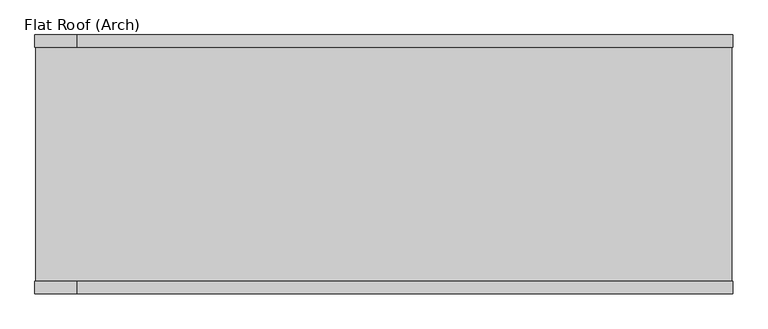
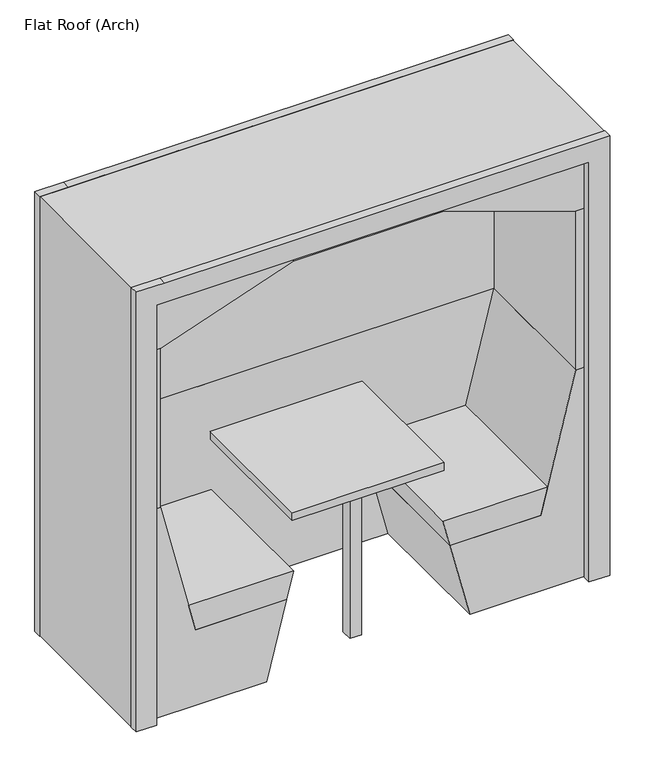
"""IFC4 building model written with IfcOpenShell, lengths in millimetres: furniture geometry, Furniture_WorkPod_Spacestor_RailwayCarriage : Flat Roof (Arch)."""

from ifc_helpers import new_model, si_unit, point, frame, frame_2d, origin, origin_with_axes, place, context, project, spatial, polyline, circle_curve, trimmed, segment, composite_curve, outline, extrude, source, transform, mapped, element, save


def flat_roof_arch_9e1a7323(model_context):
    return source(origin(), model_context, "Body", "SweptSolid", [
        extrude(outline(composite_curve([segment(trimmed(circle_curve(frame_2d((988.5, -402.0)), 15.0), [point((973.5, -402.0))], [point((1003.5, -402.0))], False, "CARTESIAN"), True, "CONTINUOUS"), segment(trimmed(circle_curve(frame_2d((988.5, -402.0)), 15.0), [point((1003.5, -402.0))], [point((973.5, -402.0))], False, "CARTESIAN"), True, "CONTINUOUS")], self_intersect=False)), origin_with_axes(), (0.0, 0.0, 1.0), 15.0),
        extrude(outline(composite_curve([segment(trimmed(circle_curve(frame_2d((-988.5, -402.0)), 15.0), [point((-1003.5, -402.0))], [point((-973.5, -402.0))], False, "CARTESIAN"), True, "CONTINUOUS"), segment(trimmed(circle_curve(frame_2d((-988.5, -402.0)), 15.0), [point((-973.5, -402.0))], [point((-1003.5, -402.0))], False, "CARTESIAN"), True, "CONTINUOUS")], self_intersect=False)), origin_with_axes(), (0.0, 0.0, 1.0), 15.0),
        extrude(outline(composite_curve([segment(trimmed(circle_curve(frame_2d((988.5, -167.0)), 15.0), [point((973.5, -167.0))], [point((1003.5, -167.0))], False, "CARTESIAN"), True, "CONTINUOUS"), segment(trimmed(circle_curve(frame_2d((988.5, -167.0)), 15.0), [point((1003.5, -167.0))], [point((973.5, -167.0))], False, "CARTESIAN"), True, "CONTINUOUS")], self_intersect=False)), origin_with_axes(), (0.0, 0.0, 1.0), 15.0),
        extrude(outline(composite_curve([segment(trimmed(circle_curve(frame_2d((-988.5, -167.0)), 15.0), [point((-1003.5, -167.0))], [point((-973.5, -167.0))], False, "CARTESIAN"), True, "CONTINUOUS"), segment(trimmed(circle_curve(frame_2d((-988.5, -167.0)), 15.0), [point((-973.5, -167.0))], [point((-1003.5, -167.0))], False, "CARTESIAN"), True, "CONTINUOUS")], self_intersect=False)), origin_with_axes(), (0.0, 0.0, 1.0), 15.0),
        extrude(outline(polyline([(3.0, 940.0), (3.0, 1030.0), (2025.0, 1030.0), (2025.0, -905.5), (2025.0, -1030.0), (3.0, -1030.0), (3.0, -940.0), (1935.0, -940.0), (1935.0, 940.0), (3.0, 940.0)])), frame((0.0, 61.0, 0.0), z_axis=(0.0, 1.0, 0.0), x_axis=(0.0, 0.0, 1.0)), (0.0, 0.0, 1.0), 36.0),
        extrude(outline(polyline([(3.0, 940.0), (3.0, 1030.0), (2025.0, 1030.0), (2025.0, -905.5), (2025.0, -1030.0), (3.0, -1030.0), (3.0, -940.0), (1935.0, -940.0), (1935.0, 940.0), (3.0, 940.0)])), frame((0.0, -666.0, 0.0), z_axis=(0.0, 1.0, 0.0), x_axis=(0.0, 0.0, 1.0)), (0.0, 0.0, 1.0), 36.0),
        extrude(outline(polyline([(323.7167545, -630.0), (-323.7167545, -630.0), (-323.7167545, 0.0), (323.7167545, 0.0), (323.7167545, -630.0)])), frame((0.0, 0.0, 1899.6), z_axis=(0.0, 0.0, 1.0), x_axis=(1.0, 0.0, 0.0)), (0.0, 0.0, 1.0), 62.0),
        extrude(outline(polyline([(-904.5, -630.0), (-966.5, -630.0), (-966.5, 0.0), (-904.5, 0.0), (-904.5, -630.0)])), frame((0.0, 0.0, 969.0), z_axis=(0.0, 0.0, 1.0), x_axis=(1.0, 0.0, 0.0)), (0.0, 0.0, 1.0), 730.62),
        extrude(outline(polyline([(966.5, -630.0), (904.5, -630.0), (904.5, 0.0), (966.5, 0.0), (966.5, -630.0)])), frame((0.0, 0.0, 969.0), z_axis=(0.0, 0.0, 1.0), x_axis=(1.0, 0.0, 0.0)), (0.0, 0.0, 1.0), 730.62),
        extrude(outline(polyline([(1699.62, -966.5), (1699.62, -904.5), (1899.5997087, -323.7167545), (1961.6, -323.7167545), (1961.6, -966.5), (1699.62, -966.5)])), frame((0.0, -630.0, 0.0), z_axis=(0.0, 1.0, 0.0), x_axis=(0.0, 0.0, 1.0)), (0.0, 0.0, 1.0), 630.0),
        extrude(outline(polyline([(1699.62, 966.5), (1961.6, 966.5), (1961.6, 323.7167545), (1899.5997087, 323.7167545), (1699.62, 904.5), (1699.62, 966.5)])), frame((0.0, -630.0, 0.0), z_axis=(0.0, 1.0, 0.0), x_axis=(0.0, 0.0, 1.0)), (0.0, 0.0, 1.0), 630.0),
        extrude(outline(polyline([(354.0, -750.5348655), (354.0, -355.6348655), (475.0, -325.4661771), (475.0, -780.6245423), (354.0, -750.5348655)])), frame((0.0, -630.0, 0.0), z_axis=(0.0, 1.0, 0.0), x_axis=(0.0, 0.0, 1.0)), (0.0, 0.0, 1.0), 630.0),
        extrude(outline(polyline([(354.0, 750.5348655), (475.0, 780.6245423), (475.0, 325.4661771), (354.0, 355.6348655), (354.0, 750.5348655)])), frame((0.0, -630.0, 0.0), z_axis=(0.0, 1.0, 0.0), x_axis=(0.0, 0.0, 1.0)), (0.0, 0.0, 1.0), 630.0),
        extrude(outline(polyline([(969.0, -903.47), (969.0, -967.0), (6.0, -967.0), (6.0, -442.4010105), (354.0, -355.6348655), (354.0, -750.5348655), (969.0, -903.47)])), frame((0.0, -630.0, 0.0), z_axis=(0.0, 1.0, 0.0), x_axis=(0.0, 0.0, 1.0)), (0.0, 0.0, 1.0), 630.0),
        extrude(outline(polyline([(969.0, 903.47), (354.0, 750.5348655), (354.0, 355.6348655), (6.0, 442.4010105), (6.0, 967.0), (969.0, 967.0), (969.0, 903.47)])), frame((0.0, -630.0, 0.0), z_axis=(0.0, 1.0, 0.0), x_axis=(0.0, 0.0, 1.0)), (0.0, 0.0, 1.0), 630.0),
        extrude(outline(polyline([(25.0, -485.0), (25.0, -535.0), (-25.0, -535.0), (-25.0, -485.0), (25.0, -485.0)])), frame((0.0, 0.0, 1.5), z_axis=(0.0, 0.0, 1.0), x_axis=(1.0, 0.0, 0.0)), (0.0, 0.0, 1.0), 705.0),
        extrude(outline(polyline([(330.0, 0.0), (330.0, -630.0), (-330.0, -630.0), (-330.0, 0.0), (330.0, 0.0)])), frame((0.0, 0.0, 708.0), z_axis=(0.0, 0.0, 1.0), x_axis=(1.0, 0.0, 0.0)), (0.0, 0.0, 1.0), 36.0),
        extrude(outline(polyline([(940.0, 61.0), (-940.0, 61.0), (-940.0, 79.0), (940.0, 79.0), (940.0, 61.0)])), frame((0.0, 0.0, 3.0), z_axis=(0.0, 0.0, 1.0), x_axis=(1.0, 0.0, 0.0)), (0.0, 0.0, 1.0), 1932.0),
        extrude(outline(polyline([(-967.5, 6.0), (967.5, 6.0), (967.5, -12.0), (-967.5, -12.0), (-967.5, 6.0)])), frame((0.0, 0.0, 3.0), z_axis=(0.0, 0.0, 1.0), x_axis=(1.0, 0.0, 0.0)), (0.0, 0.0, 1.0), 966.0),
        extrude(outline(polyline([(-967.5, 6.0), (967.5, 6.0), (967.5, -12.0), (-967.5, -12.0), (-967.5, 6.0)])), frame((0.0, 0.0, 969.0), z_axis=(0.0, 0.0, 1.0), x_axis=(1.0, 0.0, 0.0)), (0.0, 0.0, 1.0), 999.6238267),
        extrude(outline(polyline([(2005.0, 1010.0), (3.0, 1010.0), (3.0, 1028.0), (2023.0, 1028.0), (2023.0, -1028.0), (3.0, -1028.0), (3.0, -1010.0), (2005.0, -1010.0), (2005.0, 1010.0)])), frame((0.0, -630.0, 0.0), z_axis=(0.0, 1.0, 0.0), x_axis=(0.0, 0.0, 1.0)), (0.0, 0.0, 1.0), 691.0),
    ])


if __name__ == "__main__":
    model = new_model("IFC4")
    model_context = context("Model", 3, world=origin())
    ifc_project = project(units=[si_unit("LENGTHUNIT", "METRE", prefix="MILLI")], contexts=[model_context])
    site = spatial("IfcSite", under=ifc_project)
    building = spatial("IfcBuilding", under=site)
    placement = place(None, origin())
    flat_roof_arch_shape = flat_roof_arch_9e1a7323(model_context)
    element("IfcFurniture", 1, ObjectType="Furniture_WorkPod_Spacestor_RailwayCarriage : Flat Roof (Arch)", at=placement, inside=building, context=model_context, shape_type="MappedRepresentation", body=[
        mapped(flat_roof_arch_shape, transform((0.0, 0.0, 0.0), x_axis=(1.0, 0.0, 0.0), y_axis=(0.0, 1.0, 0.0), z_axis=(0.0, 0.0, 1.0))),
    ])
    save(model, "model.ifc")
